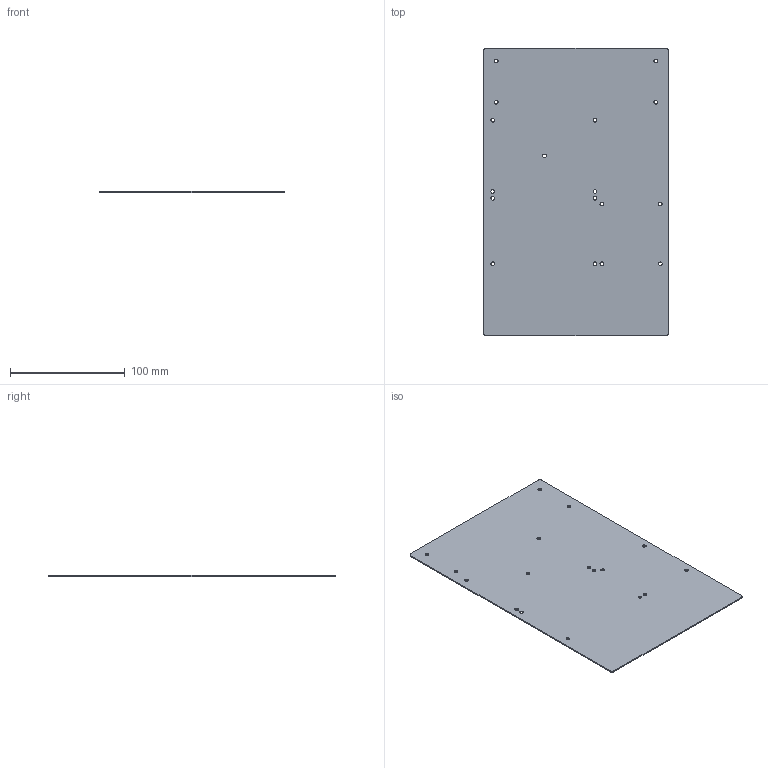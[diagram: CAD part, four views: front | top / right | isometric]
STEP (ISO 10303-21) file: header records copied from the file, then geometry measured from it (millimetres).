
FILE_DESCRIPTION(('FreeCAD Model'),'2;1');
FILE_NAME('Open CASCADE Shape Model','2021-12-19T00:37:46',('Author'),( ''),'Open CASCADE STEP processor 7.4','FreeCAD','Unknown');
FILE_SCHEMA(('AUTOMOTIVE_DESIGN { 1 0 10303 214 1 1 1 1 }'));
Length unit declared in the file: millimetre
Products named in the file (1): Unfold003
Bounding box: 161 x 250.4 x 1 mm (x, y, z)
Volume: 40174 mm3; surface area: 81338.2 mm2
Topology: 1 solids, 1 shells, 27 faces, 75 edges, 50 vertices
Faces by surface type: cylinder 21, plane 6
Full cylindrical faces by diameter (mm): 3.2 x17
Entity records: 2019 total; most frequent: CARTESIAN_POINT 429, DIRECTION 302, ORIENTED_EDGE 150, PCURVE 150, DEFINITIONAL_REPRESENTATION 150, LINE 141, VECTOR 141, EDGE_CURVE 75
